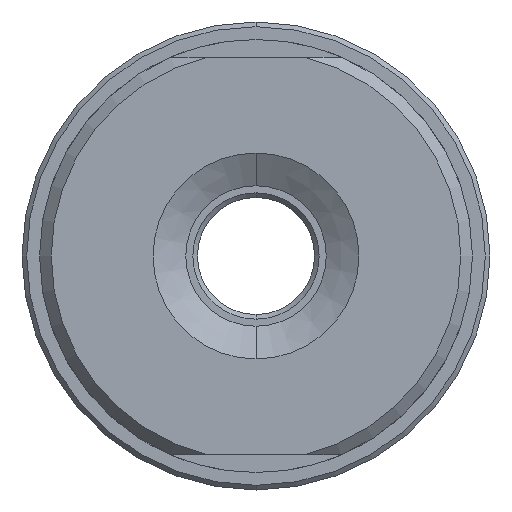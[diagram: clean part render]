
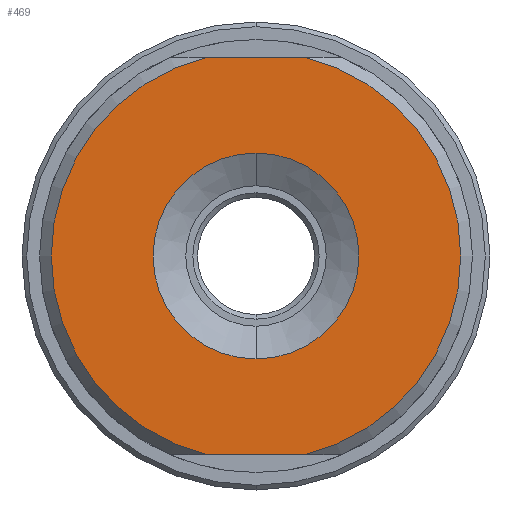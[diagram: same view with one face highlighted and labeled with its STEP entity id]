
A CAD part, front view. The second image highlights one B-rep face of the part: STEP entity #469.
In plain terms, the highlighted planar face has unit normal (0, -1, 0).
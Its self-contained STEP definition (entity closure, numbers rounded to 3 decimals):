
#109 = CIRCLE ( 'NONE', #1700, 4.4 ) ;
#189 = EDGE_CURVE ( 'NONE', #388, #2192, #4054, .T. ) ;
#223 = EDGE_CURVE ( 'NONE', #388, #4513, #540, .T. ) ;
#249 = ORIENTED_EDGE ( 'NONE', *, *, #2630, .T. ) ;
#275 = VECTOR ( 'NONE', #1699, 1000. ) ;
#388 = VERTEX_POINT ( 'NONE', #3560 ) ;
#469 = ADVANCED_FACE ( 'NONE', ( #2866, #1835 ), #4347, .F. ) ;
#532 = CARTESIAN_POINT ( 'NONE',  ( -27.376, -45.746, 85.5 ) ) ;
#540 = LINE ( 'NONE', #2645, #2873 ) ;
#618 = CIRCLE ( 'NONE', #2551, 8.75 ) ;
#649 = CIRCLE ( 'NONE', #3917, 4.4 ) ;
#1230 = ORIENTED_EDGE ( 'NONE', *, *, #1762, .F. ) ;
#1448 = LINE ( 'NONE', #2944, #275 ) ;
#1502 = VERTEX_POINT ( 'NONE', #4521 ) ;
#1678 = CARTESIAN_POINT ( 'NONE',  ( -25.3, -45.746, 94. ) ) ;
#1699 = DIRECTION ( 'NONE',  ( -1., 0., 0. ) ) ;
#1700 = AXIS2_PLACEMENT_3D ( 'NONE', #4786, #4630, #5601 ) ;
#1762 = EDGE_CURVE ( 'NONE', #2186, #3885, #109, .T. ) ;
#1798 = ORIENTED_EDGE ( 'NONE', *, *, #189, .T. ) ;
#1800 = CARTESIAN_POINT ( 'NONE',  ( -25.3, -45.746, 89.6 ) ) ;
#1835 = FACE_OUTER_BOUND ( 'NONE', #4129, .T. ) ;
#2105 = CARTESIAN_POINT ( 'NONE',  ( -25.3, -45.746, 94. ) ) ;
#2186 = VERTEX_POINT ( 'NONE', #1800 ) ;
#2192 = VERTEX_POINT ( 'NONE', #532 ) ;
#2198 = ORIENTED_EDGE ( 'NONE', *, *, #2398, .F. ) ;
#2398 = EDGE_CURVE ( 'NONE', #1502, #2192, #1448, .T. ) ;
#2505 = DIRECTION ( 'NONE',  ( 0., 0., 1. ) ) ;
#2535 = DIRECTION ( 'NONE',  ( 0., -1., 0. ) ) ;
#2549 = DIRECTION ( 'NONE',  ( 0., 0., -1. ) ) ;
#2551 = AXIS2_PLACEMENT_3D ( 'NONE', #1678, #2535, #2505 ) ;
#2630 = EDGE_CURVE ( 'NONE', #1502, #4513, #618, .T. ) ;
#2645 = CARTESIAN_POINT ( 'NONE',  ( -33.507, -45.746, 102.5 ) ) ;
#2690 = DIRECTION ( 'NONE',  ( 1., 0., 0. ) ) ;
#2728 = AXIS2_PLACEMENT_3D ( 'NONE', #5675, #4260, #4197 ) ;
#2866 = FACE_BOUND ( 'NONE', #5164, .T. ) ;
#2873 = VECTOR ( 'NONE', #2690, 1000. ) ;
#2944 = CARTESIAN_POINT ( 'NONE',  ( -33.507, -45.746, 85.5 ) ) ;
#3505 = DIRECTION ( 'NONE',  ( 0., -1., 0. ) ) ;
#3560 = CARTESIAN_POINT ( 'NONE',  ( -27.376, -45.746, 102.5 ) ) ;
#3831 = CARTESIAN_POINT ( 'NONE',  ( -25.3, -45.746, 98.4 ) ) ;
#3885 = VERTEX_POINT ( 'NONE', #3831 ) ;
#3917 = AXIS2_PLACEMENT_3D ( 'NONE', #2105, #5190, #2549 ) ;
#3919 = EDGE_CURVE ( 'NONE', #3885, #2186, #649, .T. ) ;
#3995 = DIRECTION ( 'NONE',  ( 0., 0., 1. ) ) ;
#4023 = CARTESIAN_POINT ( 'NONE',  ( -23.223, -45.746, 102.5 ) ) ;
#4054 = CIRCLE ( 'NONE', #5020, 8.75 ) ;
#4129 = EDGE_LOOP ( 'NONE', ( #1798, #2198, #249, #4198 ) ) ;
#4197 = DIRECTION ( 'NONE',  ( 0., 0., 1. ) ) ;
#4198 = ORIENTED_EDGE ( 'NONE', *, *, #223, .F. ) ;
#4260 = DIRECTION ( 'NONE',  ( 0., 1., 0. ) ) ;
#4347 = PLANE ( 'NONE',  #2728 ) ;
#4484 = CARTESIAN_POINT ( 'NONE',  ( -25.3, -45.746, 94. ) ) ;
#4513 = VERTEX_POINT ( 'NONE', #4023 ) ;
#4521 = CARTESIAN_POINT ( 'NONE',  ( -23.223, -45.746, 85.5 ) ) ;
#4630 = DIRECTION ( 'NONE',  ( 0., -1., 0. ) ) ;
#4786 = CARTESIAN_POINT ( 'NONE',  ( -25.3, -45.746, 94. ) ) ;
#5020 = AXIS2_PLACEMENT_3D ( 'NONE', #4484, #3505, #3995 ) ;
#5164 = EDGE_LOOP ( 'NONE', ( #1230, #5508 ) ) ;
#5190 = DIRECTION ( 'NONE',  ( 0., -1., 0. ) ) ;
#5508 = ORIENTED_EDGE ( 'NONE', *, *, #3919, .F. ) ;
#5601 = DIRECTION ( 'NONE',  ( 0., 0., -1. ) ) ;
#5675 = CARTESIAN_POINT ( 'NONE',  ( -25.3, -45.746, 94. ) ) ;
